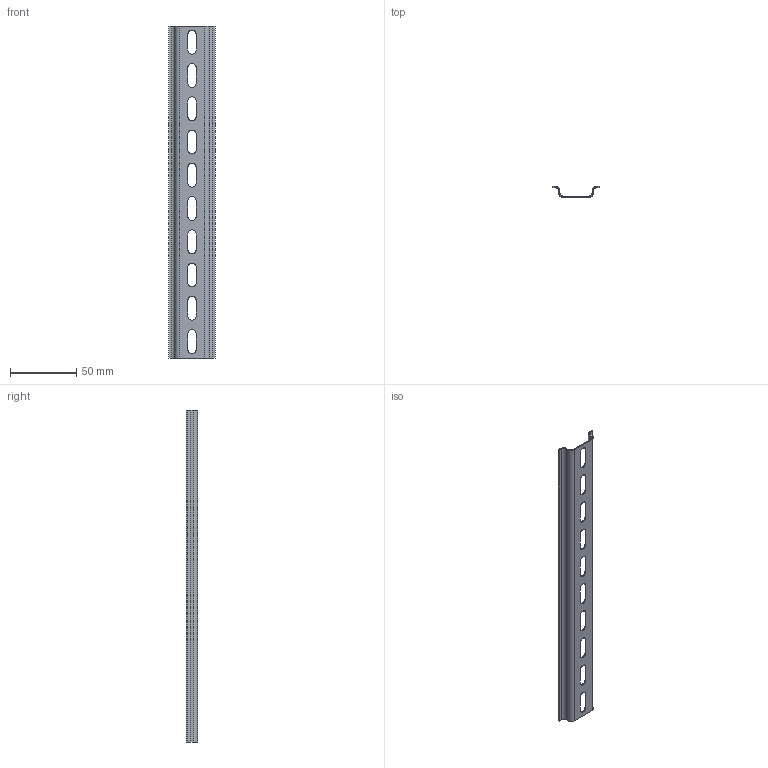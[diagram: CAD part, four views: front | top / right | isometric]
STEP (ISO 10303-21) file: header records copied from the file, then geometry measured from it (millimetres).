
FILE_DESCRIPTION (( 'STEP AP214' ), '1' );
FILE_NAME ('DIN-ðåéêà 250ìì õ 0,8 ìì.STEP', '2025-10-22T12:47:44', ( '' ), ( '' ), 'SwSTEP 2.0', 'SolidWorks 2018', '' );
FILE_SCHEMA (( 'AUTOMOTIVE_DESIGN' ));
Length unit declared in the file: millimetre
Products named in the file (1): DIN-ðåéêà 250ìì õ 0,8 ìì
Bounding box: 35.2 x 8.3 x 250 mm (x, y, z)
Volume: 8228.5 mm3; surface area: 21386.2 mm2
Topology: 1 solids, 1 shells, 88 faces, 226 edges, 140 vertices
Faces by surface type: plane 50, cylinder 38
Entity records: 2724 total; most frequent: DIRECTION 480, CARTESIAN_POINT 455, ORIENTED_EDGE 452, EDGE_CURVE 226, AXIS2_PLACEMENT_3D 165, LINE 150, VECTOR 150, VERTEX_POINT 140
